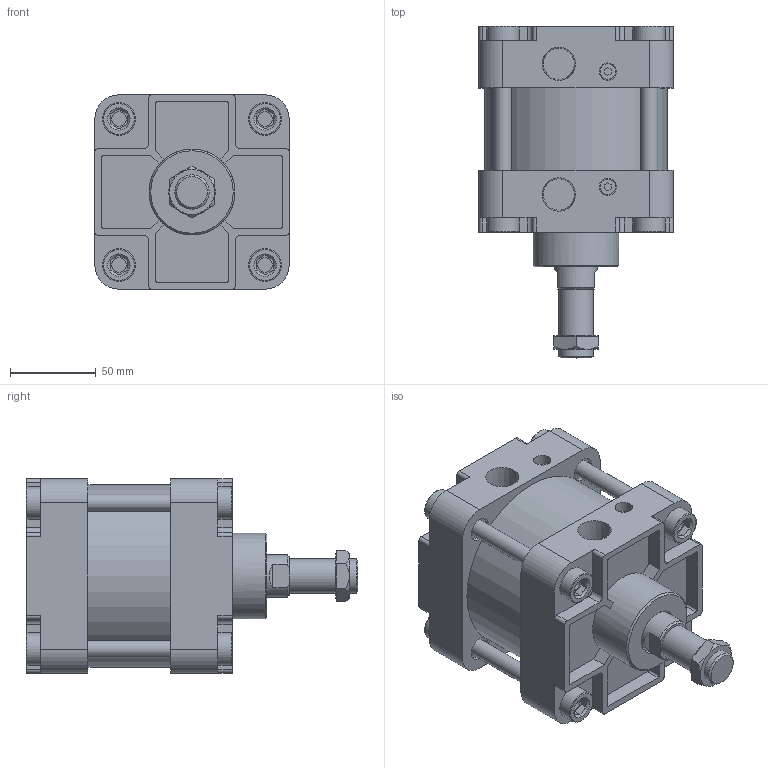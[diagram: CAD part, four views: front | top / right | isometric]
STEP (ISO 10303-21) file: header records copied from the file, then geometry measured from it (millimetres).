
FILE_DESCRIPTION(/* description */ ('Unknown'),/* implementation_level */ '2;1');
FILE_NAME(/* name */ 'WA100-0',/* time_stamp */ '2026-07-17T16:57:16+08:00',/* author */ ('Unknown'),/* organization */ ('Unknown'),/* preprocessor_version */ 'ST-DEVELOPER v16.7',/* originating_system */ 'DEX',/* authorisation */ $);
FILE_SCHEMA (('CONFIG_CONTROL_DESIGN'));
Length unit declared in the file: millimetre
Products named in the file (7): WA100-0; WA100_«eÀ'û; WA100_後; WA100_ｾTPｺｩ; WA100_心軸活f; WA100_T碪墮姊濈祫; M20-1.5P-8_螺
Assembly tree (9 placements, depth 2):
  WA100-0
    WA100_«eÀ'û
    WA100_後
    WA100_ｾTPｺｩ
    WA100_心軸活f
    WA100_T碪墮姊濈祫  x4
    M20-1.5P-8_螺
Bounding box: 113 x 193 x 113 mm (x, y, z)
Volume: 1252025.4 mm3; surface area: 209455.1 mm2
Topology: 9 solids, 9 shells, 353 faces, 855 edges, 569 vertices
Faces by surface type: plane 219, cylinder 103, cone 23, torus 8
Full cylindrical faces by diameter (mm): 8.5 x8, 9 x2, 10 x6, 14 x8, 14.2 x8, 18.376 x1, 19 x8, 20 x1, 25 x2, 26 x1, 50 x1, 99.5 x1, 100 x3, 106 x1
Entity records: 9250 total; most frequent: CARTESIAN_POINT 1380, DIRECTION 1286, ORIENTED_EDGE 1172, EDGE_CURVE 586, AXIS2_PLACEMENT_3D 464, VERTEX_POINT 410, LINE 358, VECTOR 358
